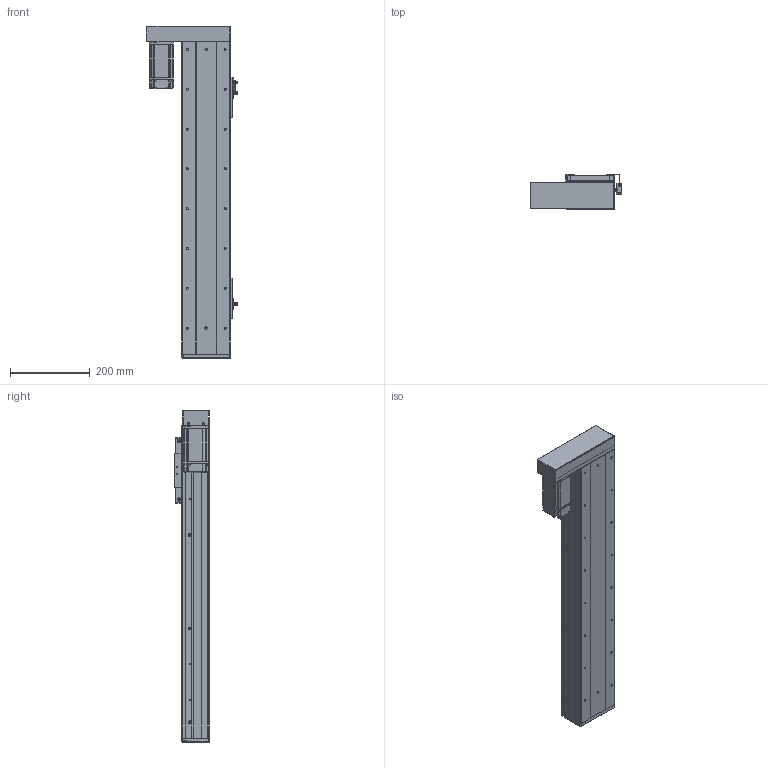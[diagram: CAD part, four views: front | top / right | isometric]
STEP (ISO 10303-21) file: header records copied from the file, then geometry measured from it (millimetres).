
FILE_DESCRIPTION (( 'STEP AP203' ), '1' );
FILE_NAME ('RY120F-L1620-300-LK.SLDASM_550.step', '2021-03-02T08:03:56', ( '盈信电脑' ), ( '东莞市道滘镇水果街19号' ), 'SwSTEP 2.0', 'SolidWorks 2012', '' );
FILE_SCHEMA (( 'CONFIG_CONTROL_DESIGN' ));
Length unit declared in the file: millimetre
Products named in the file (18): RY120F-L1620-300-LK.SLDASM_550; RY120F酘衵殏萇儂欶(200W); RY120F酘衵殏萇儂啣(200W PCD70 M4); 15; FY120F詩湍揤踡輸; 672嫖萇羲壽假蚾釱; RY80俋离覜茼え; 覜茼ん672; RY120F-詩湍幗謫粣; RY120F綴裔啣(臏璃ㄘ; RY120F祥凄詩滅鳥裔; 滅袉蝶18-24; RT120F-臏賑輸奻釱; RY120F滅鳥詩湍-300-LK_550; RT120F-臏賑輸 16蹟譫; RY120F转折电机端支撑座; RT120F-300-倰第菁釱-LK_550; RT120F-300-倰第裔啣-LK_550
Assembly tree (23 placements, depth 2):
  RY120F-L1620-300-LK.SLDASM_550
    RT120F-300-倰第菁釱-LK_550
    RT120F-300-倰第裔啣-LK_550  x2
    RY120F滅鳥詩湍-300-LK_550
    RT120F-臏賑輸 16蹟譫
    RT120F-臏賑輸奻釱
    RY120F转折电机端支撑座
    RY120F祥凄詩滅鳥裔
    滅袉蝶18-24  x2
    RY120F綴裔啣(臏璃ㄘ
    RY120F-詩湍幗謫粣
    覜茼ん672  x3
    672嫖萇羲壽假蚾釱  x2
    RY80俋离覜茼え
    FY120F詩湍揤踡輸  x2
    15
    RY120F酘衵殏萇儂啣(200W PCD70 M4)
    RY120F酘衵殏萇儂欶(200W)
Bounding box: 229.9 x 89 x 834 mm (x, y, z)
Volume: 3122684.9 mm3; surface area: 1131769.4 mm2
Topology: 23 solids, 23 shells, 2075 faces, 5565 edges, 3545 vertices
Faces by surface type: cylinder 924, plane 896, cone 229, bspline 26
Entity records: 58167 total; most frequent: CARTESIAN_POINT 10772, DIRECTION 9805, ORIENTED_EDGE 9170, EDGE_CURVE 4585, AXIS2_PLACEMENT_3D 3542, VERTEX_POINT 2989, LINE 2721, VECTOR 2721
